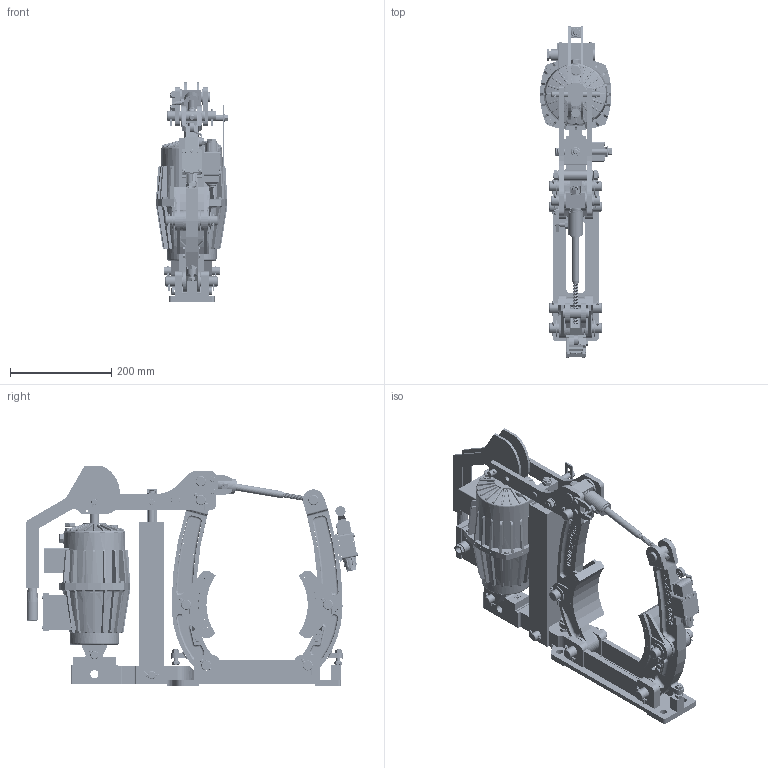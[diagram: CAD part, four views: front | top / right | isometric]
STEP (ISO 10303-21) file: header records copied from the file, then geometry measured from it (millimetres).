
FILE_DESCRIPTION((''),'2;1');
FILE_NAME('4459_204_501_E00005','2018-01-29T',('VORO'),(''),'CREO PARAMETRIC BY PTC INC, 2017170','CREO PARAMETRIC BY PTC INC, 2017170','');
FILE_SCHEMA(('CONFIG_CONTROL_DESIGN'));
Products named in the file (1): 4459_204_501_E00005
Bounding box: 142.1 x 655.02 x 433 mm (x, y, z)
Surface area: 1160748.7 mm2 (no closed solid volume)
Topology: 0 solids, 4902 shells, 5327 faces, 33657 edges, 32714 vertices
Faces by surface type: plane 2618, cylinder 1941, cone 411, torus 301, bspline 48, sphere 8
Entity records: 543296 total; most frequent: CARTESIAN_POINT 142713, PRESENTATION_STYLE_ASSIGNMENT 43802, DIRECTION 39341, STYLED_ITEM 38475, ORIENTED_EDGE 34469, CURVE_STYLE 33573, EDGE_CURVE 33573, VERTEX_POINT 32692
